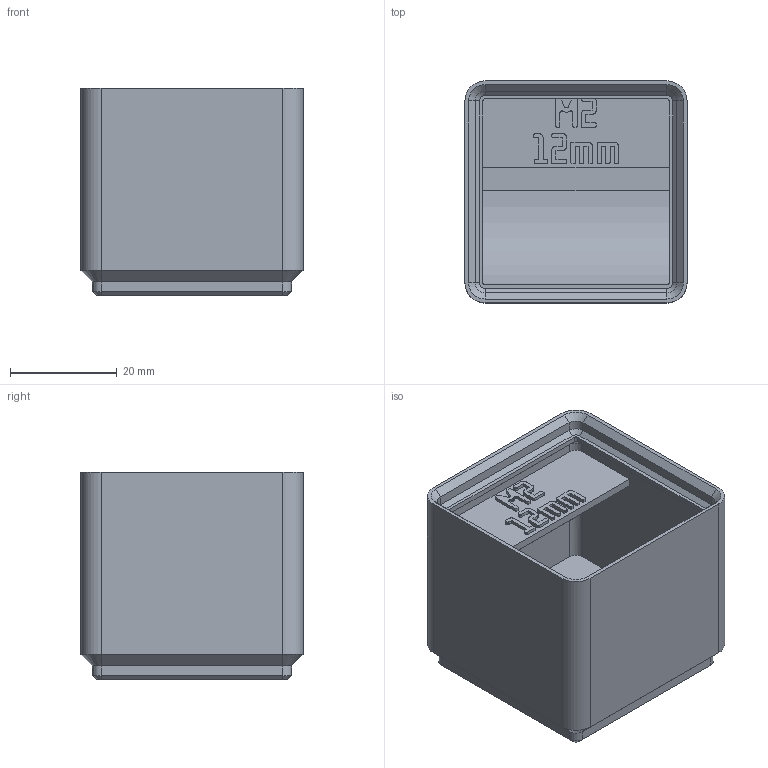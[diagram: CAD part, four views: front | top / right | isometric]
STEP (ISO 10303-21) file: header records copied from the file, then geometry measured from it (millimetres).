
FILE_DESCRIPTION(('Open CASCADE Model'),'2;1');
FILE_NAME('Open CASCADE Shape Model','2026-11-03T10:23:06',('Author'),( 'Open CASCADE'),'Open CASCADE STEP processor 8.0','build123d', 'Unknown');
FILE_SCHEMA(('AUTOMOTIVE_DESIGN { 1 0 10303 214 1 1 1 1 }'));
Length unit declared in the file: millimetre
Products named in the file (1): COMPOUND
Bounding box: 41.5 x 41.5 x 38.8 mm (x, y, z)
Volume: 28176 mm3; surface area: 14244.2 mm2
Topology: 1 solids, 1 shells, 697 faces, 2005 edges, 1318 vertices
Faces by surface type: plane 654, cylinder 23, cone 20
Entity records: 47188 total; most frequent: CARTESIAN_POINT 9673, DIRECTION 6045, LINE 4521, VECTOR 4521, ORIENTED_EDGE 4010, PCURVE 4010, DEFINITIONAL_REPRESENTATION 4010, EDGE_CURVE 2005
